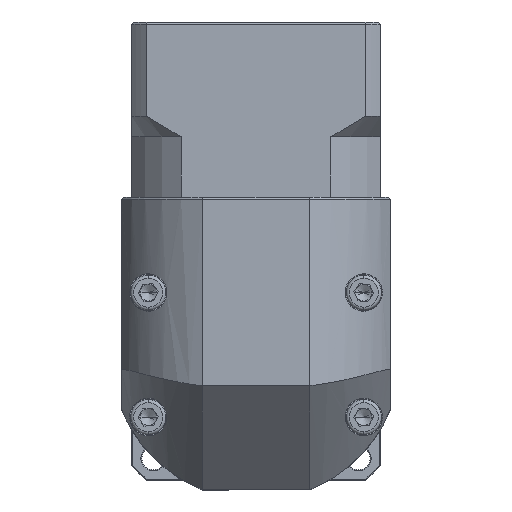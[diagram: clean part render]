
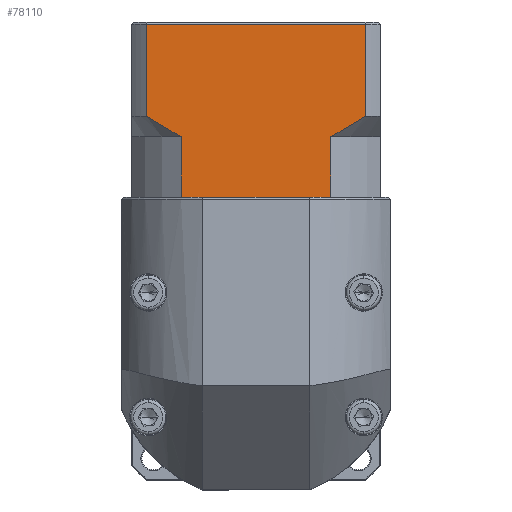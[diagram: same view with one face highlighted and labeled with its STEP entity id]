
A CAD part, top view. The second image highlights one B-rep face of the part: STEP entity #78110.
In plain terms, the highlighted planar face has unit normal (0, 0, 1).
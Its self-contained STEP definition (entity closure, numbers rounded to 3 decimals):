
#1299 = VECTOR ( 'NONE', #14919, 1000. ) ;
#2815 = DIRECTION ( 'NONE',  ( 0., 1., 0. ) ) ;
#3781 = CARTESIAN_POINT ( 'NONE',  ( -98.745, 66.764, 82.485 ) ) ;
#5261 = LINE ( 'NONE', #77477, #103530 ) ;
#5833 = VERTEX_POINT ( 'NONE', #35716 ) ;
#6500 = DIRECTION ( 'NONE',  ( 0., -1., 0. ) ) ;
#7056 = CARTESIAN_POINT ( 'NONE',  ( -48.572, 64.988, 82.485 ) ) ;
#7245 = LINE ( 'NONE', #62277, #92625 ) ;
#8608 = CARTESIAN_POINT ( 'NONE',  ( -98.745, 88.964, 82.485 ) ) ;
#8906 = EDGE_CURVE ( 'NONE', #5833, #81900, #17947, .T. ) ;
#10578 = CARTESIAN_POINT ( 'NONE',  ( -97.385, 65.864, 82.485 ) ) ;
#11548 = VECTOR ( 'NONE', #16415, 1000. ) ;
#11888 = CARTESIAN_POINT ( 'NONE',  ( -90.315, 47.264, 82.485 ) ) ;
#13614 = ORIENTED_EDGE ( 'NONE', *, *, #68384, .T. ) ;
#14919 = DIRECTION ( 'NONE',  ( 0., 1., 0. ) ) ;
#16415 = DIRECTION ( 'NONE',  ( 1., 0., 0. ) ) ;
#17947 = LINE ( 'NONE', #23841, #11548 ) ;
#22667 = VECTOR ( 'NONE', #2815, 1000. ) ;
#23582 = FACE_OUTER_BOUND ( 'NONE', #72612, .T. ) ;
#23841 = CARTESIAN_POINT ( 'NONE',  ( -102.287, 47.264, 82.485 ) ) ;
#26561 = CARTESIAN_POINT ( 'NONE',  ( -54.259, 61.764, 82.485 ) ) ;
#26588 = ORIENTED_EDGE ( 'NONE', *, *, #40995, .T. ) ;
#29385 = EDGE_CURVE ( 'NONE', #31265, #5833, #43714, .T. ) ;
#31265 = VERTEX_POINT ( 'NONE', #101091 ) ;
#32139 = B_SPLINE_CURVE_WITH_KNOTS ( 'NONE', 3,
 ( #67841, #10578, #100095, #50723, #51088, #84249 ),
 .UNSPECIFIED., .F., .F.,
 ( 4, 2, 4 ),
 ( 0.052, 0.057, 0.062 ),
 .UNSPECIFIED. ) ;
#34370 = EDGE_CURVE ( 'NONE', #80044, #35262, #96672, .T. ) ;
#35262 = VERTEX_POINT ( 'NONE', #68268 ) ;
#35716 = CARTESIAN_POINT ( 'NONE',  ( -55.25, 47.264, 82.485 ) ) ;
#39695 = LINE ( 'NONE', #26561, #94577 ) ;
#40537 = VERTEX_POINT ( 'NONE', #89474 ) ;
#40995 = EDGE_CURVE ( 'NONE', #97765, #81880, #89462, .T. ) ;
#42985 = CARTESIAN_POINT ( 'NONE',  ( -90.315, 61.764, 82.485 ) ) ;
#43714 = LINE ( 'NONE', #93811, #85806 ) ;
#48972 = CARTESIAN_POINT ( 'NONE',  ( -51.377, 63.314, 82.485 ) ) ;
#49719 = DIRECTION ( 'NONE',  ( 0., 0., -1. ) ) ;
#49845 = EDGE_CURVE ( 'NONE', #97765, #81900, #39695, .T. ) ;
#50061 = PLANE ( 'NONE',  #78113 ) ;
#50330 = CARTESIAN_POINT ( 'NONE',  ( -54.259, 47.264, 82.485 ) ) ;
#50723 = CARTESIAN_POINT ( 'NONE',  ( -93.198, 63.315, 82.485 ) ) ;
#50762 = CARTESIAN_POINT ( 'NONE',  ( -102.287, 89.464, 82.485 ) ) ;
#50851 = VECTOR ( 'NONE', #6500, 1000. ) ;
#51088 = CARTESIAN_POINT ( 'NONE',  ( -91.767, 62.512, 82.485 ) ) ;
#53296 = VERTEX_POINT ( 'NONE', #3781 ) ;
#60348 = DIRECTION ( 'NONE',  ( 0., -1., 0. ) ) ;
#62277 = CARTESIAN_POINT ( 'NONE',  ( -102.287, 88.964, 82.485 ) ) ;
#62899 = CARTESIAN_POINT ( 'NONE',  ( -98.745, 61.764, 82.485 ) ) ;
#64300 = CARTESIAN_POINT ( 'NONE',  ( -54.259, 61.764, 82.485 ) ) ;
#65018 = CARTESIAN_POINT ( 'NONE',  ( -45.83, 66.764, 82.485 ) ) ;
#67311 = EDGE_CURVE ( 'NONE', #53296, #87869, #71392, .T. ) ;
#67841 = CARTESIAN_POINT ( 'NONE',  ( -98.745, 66.764, 82.485 ) ) ;
#68268 = CARTESIAN_POINT ( 'NONE',  ( -90.315, 61.764, 82.485 ) ) ;
#68384 = EDGE_CURVE ( 'NONE', #40537, #87869, #7245, .T. ) ;
#71392 = LINE ( 'NONE', #62899, #1299 ) ;
#71709 = ORIENTED_EDGE ( 'NONE', *, *, #84502, .F. ) ;
#72196 = CARTESIAN_POINT ( 'NONE',  ( -52.803, 62.514, 82.485 ) ) ;
#72612 = EDGE_LOOP ( 'NONE', ( #71709, #13614, #96511, #91734, #89439, #104469, #103350, #96931, #99113, #26588 ) ) ;
#73808 = LINE ( 'NONE', #96315, #50851 ) ;
#75440 = DIRECTION ( 'NONE',  ( 0., 1., 0. ) ) ;
#77477 = CARTESIAN_POINT ( 'NONE',  ( -102.287, 47.264, 82.485 ) ) ;
#78110 = ADVANCED_FACE ( 'NONE', ( #23582 ), #50061, .F. ) ;
#78113 = AXIS2_PLACEMENT_3D ( 'NONE', #50762, #49719, #75440 ) ;
#78377 = DIRECTION ( 'NONE',  ( -1., 0., 0. ) ) ;
#79643 = EDGE_CURVE ( 'NONE', #80044, #31265, #5261, .T. ) ;
#80044 = VERTEX_POINT ( 'NONE', #11888 ) ;
#81880 = VERTEX_POINT ( 'NONE', #99679 ) ;
#81900 = VERTEX_POINT ( 'NONE', #50330 ) ;
#84249 = CARTESIAN_POINT ( 'NONE',  ( -90.315, 61.764, 82.485 ) ) ;
#84502 = EDGE_CURVE ( 'NONE', #40537, #81880, #73808, .T. ) ;
#85806 = VECTOR ( 'NONE', #95576, 1000. ) ;
#86017 = DIRECTION ( 'NONE',  ( 1., 0., 0. ) ) ;
#87869 = VERTEX_POINT ( 'NONE', #8608 ) ;
#89439 = ORIENTED_EDGE ( 'NONE', *, *, #34370, .F. ) ;
#89462 = B_SPLINE_CURVE_WITH_KNOTS ( 'NONE', 3,
 ( #64300, #72196, #48972, #7056, #97241, #65018 ),
 .UNSPECIFIED., .F., .F.,
 ( 4, 2, 4 ),
 ( 0.1, 0.104, 0.109 ),
 .UNSPECIFIED. ) ;
#89474 = CARTESIAN_POINT ( 'NONE',  ( -45.83, 88.964, 82.485 ) ) ;
#91734 = ORIENTED_EDGE ( 'NONE', *, *, #95644, .T. ) ;
#92625 = VECTOR ( 'NONE', #78377, 1000. ) ;
#93811 = CARTESIAN_POINT ( 'NONE',  ( -102.287, 47.264, 82.485 ) ) ;
#94577 = VECTOR ( 'NONE', #60348, 1000. ) ;
#95080 = CARTESIAN_POINT ( 'NONE',  ( -54.259, 61.764, 82.485 ) ) ;
#95576 = DIRECTION ( 'NONE',  ( 1., 0., 0. ) ) ;
#95644 = EDGE_CURVE ( 'NONE', #53296, #35262, #32139, .T. ) ;
#96315 = CARTESIAN_POINT ( 'NONE',  ( -45.83, 61.764, 82.485 ) ) ;
#96511 = ORIENTED_EDGE ( 'NONE', *, *, #67311, .F. ) ;
#96672 = LINE ( 'NONE', #42985, #22667 ) ;
#96931 = ORIENTED_EDGE ( 'NONE', *, *, #8906, .T. ) ;
#97241 = CARTESIAN_POINT ( 'NONE',  ( -47.192, 65.862, 82.485 ) ) ;
#97765 = VERTEX_POINT ( 'NONE', #95080 ) ;
#99113 = ORIENTED_EDGE ( 'NONE', *, *, #49845, .F. ) ;
#99679 = CARTESIAN_POINT ( 'NONE',  ( -45.83, 66.764, 82.485 ) ) ;
#100095 = CARTESIAN_POINT ( 'NONE',  ( -96.006, 64.991, 82.485 ) ) ;
#101091 = CARTESIAN_POINT ( 'NONE',  ( -89.324, 47.264, 82.485 ) ) ;
#103350 = ORIENTED_EDGE ( 'NONE', *, *, #29385, .T. ) ;
#103530 = VECTOR ( 'NONE', #86017, 1000. ) ;
#104469 = ORIENTED_EDGE ( 'NONE', *, *, #79643, .T. ) ;
